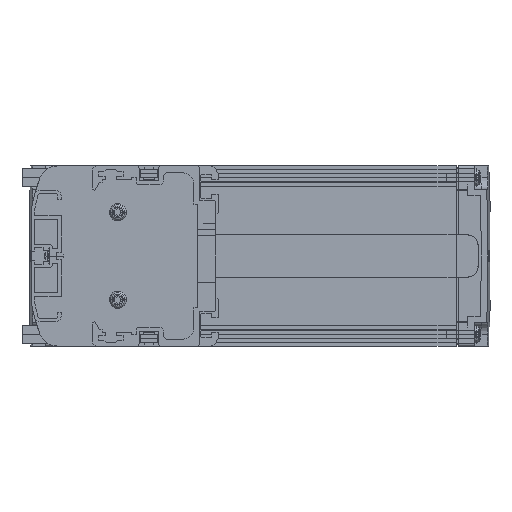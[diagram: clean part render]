
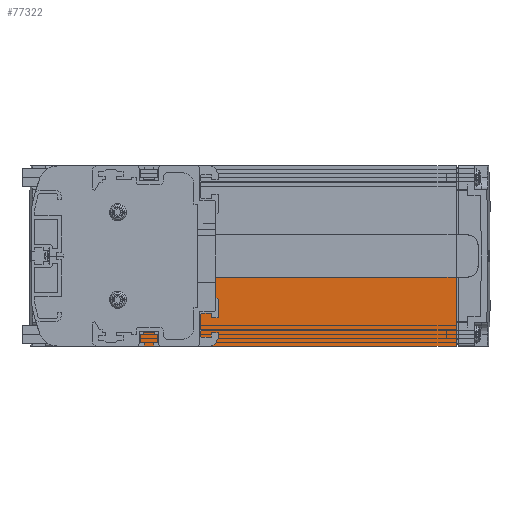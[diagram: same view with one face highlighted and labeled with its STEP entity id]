
A CAD part, left-side view. The second image highlights one B-rep face of the part: STEP entity #77322.
In plain terms, the highlighted planar face has unit normal (-1, 0, 0).
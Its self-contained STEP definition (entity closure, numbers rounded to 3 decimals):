
#75263=DIRECTION('',(0.,1.,0.));
#75264=VECTOR('',#75263,51.);
#75265=CARTESIAN_POINT('',(3.,16.,-27.));
#75266=LINE('',#75265,#75264);
#75912=DIRECTION('',(0.,1.,0.));
#75913=VECTOR('',#75912,170.);
#75914=CARTESIAN_POINT('',(3.,-103.,-39.));
#75915=LINE('',#75914,#75913);
#75930=DIRECTION('',(0.,0.,1.));
#75931=VECTOR('',#75930,29.9);
#75932=CARTESIAN_POINT('',(3.,-103.,-39.));
#75933=LINE('',#75932,#75931);
#75934=DIRECTION('',(0.,0.,-1.));
#75935=VECTOR('',#75934,12.);
#75936=CARTESIAN_POINT('',(3.,67.,-27.));
#75937=LINE('',#75936,#75935);
#75938=DIRECTION('',(0.,0.,-1.));
#75939=VECTOR('',#75938,17.9);
#75940=CARTESIAN_POINT('',(3.,16.,-9.1));
#75941=LINE('',#75940,#75939);
#76048=DIRECTION('',(0.,1.,0.));
#76049=VECTOR('',#76048,119.);
#76050=CARTESIAN_POINT('',(3.,-103.,-9.1));
#76051=LINE('',#76050,#76049);
#76135=CARTESIAN_POINT('',(3.,67.,-27.));
#76137=VERTEX_POINT('',#76135);
#76229=CARTESIAN_POINT('',(3.,67.,-39.));
#76230=VERTEX_POINT('',#76229);
#76303=CARTESIAN_POINT('',(3.,-103.,-39.));
#76304=VERTEX_POINT('',#76303);
#76305=CARTESIAN_POINT('',(3.,-103.,-9.1));
#76306=VERTEX_POINT('',#76305);
#76367=CARTESIAN_POINT('',(3.,16.,-27.));
#76368=VERTEX_POINT('',#76367);
#76369=CARTESIAN_POINT('',(3.,16.,-9.1));
#76370=VERTEX_POINT('',#76369);
#77307=CARTESIAN_POINT('',(3.,-18.,-24.05));
#77308=DIRECTION('',(1.,0.,0.));
#77309=DIRECTION('',(0.,0.,-1.));
#77310=AXIS2_PLACEMENT_3D('',#77307,#77308,#77309);
#77311=PLANE('',#77310);
#77312=ORIENTED_EDGE('',*,*,#76553,.F.);
#77314=ORIENTED_EDGE('',*,*,#77313,.F.);
#77316=ORIENTED_EDGE('',*,*,#77315,.F.);
#77317=ORIENTED_EDGE('',*,*,#76881,.F.);
#77318=ORIENTED_EDGE('',*,*,#77295,.T.);
#77319=ORIENTED_EDGE('',*,*,#76422,.F.);
#77320=EDGE_LOOP('',(#77312,#77314,#77316,#77317,#77318,#77319));
#77321=FACE_OUTER_BOUND('',#77320,.F.);
#77322=ADVANCED_FACE('',(#77321),#77311,.F.);
#76422=EDGE_CURVE('',#76137,#76230,#75937,.T.);
#76553=EDGE_CURVE('',#76368,#76137,#75266,.T.);
#76881=EDGE_CURVE('',#76304,#76306,#75933,.T.);
#77295=EDGE_CURVE('',#76304,#76230,#75915,.T.);
#77313=EDGE_CURVE('',#76370,#76368,#75941,.T.);
#77315=EDGE_CURVE('',#76306,#76370,#76051,.T.);
